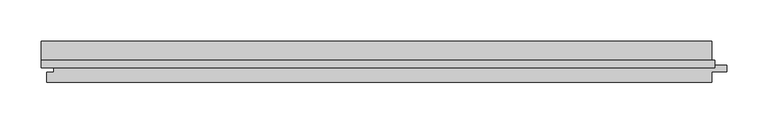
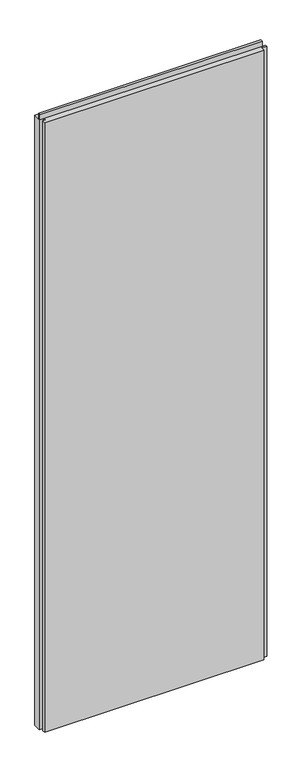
"""IFC4 building model written with IfcOpenShell, lengths in millimetres: plate geometry, Trimo_Qbiss Screen_Normal Panel-VERTICAL : HR - FB."""

from ifc_helpers import new_model, si_unit, frame, origin, place, context, project, spatial, polyline, outline, extrude, source, transform, mapped, element, save


def plate_1518a5a2(model_context):
    return source(origin(), model_context, "Body", "SweptSolid", [
        extrude(outline(polyline([(-351.0, 93.9), (-351.0, 102.6), (467.0, 102.6), (467.0, 93.9), (-351.0, 93.9)])), frame((0.0, 0.0, 2390.5), z_axis=(0.0, 0.0, 1.0), x_axis=(1.0, 0.0, 0.0)), (0.0, 0.0, 1.0), 19.0),
        extrude(outline(polyline([(463.0, 97.0), (481.5, 97.0), (481.5, 89.0), (463.0, 89.0), (463.0, 76.0), (-344.0, 76.0), (-344.0, 88.0), (-335.5, 88.0), (-335.5, 98.0), (-351.0, 98.0), (-351.0, 126.0), (463.0, 126.0), (463.0, 97.0)])), frame((0.0, 0.0, 12.5), z_axis=(0.0, 0.0, 1.0), x_axis=(1.0, 0.0, 0.0)), (0.0, 0.0, 1.0), 2375.0),
    ])


if __name__ == "__main__":
    model = new_model("IFC4")
    model_context = context("Model", 3, world=origin())
    ifc_project = project(units=[si_unit("LENGTHUNIT", "METRE", prefix="MILLI")], contexts=[model_context])
    site = spatial("IfcSite", under=ifc_project)
    building = spatial("IfcBuilding", under=site)
    placement = place(None, origin())
    plate_shape = plate_1518a5a2(model_context)
    element("IfcPlate", 1, ObjectType="Trimo_Qbiss Screen_Normal Panel-VERTICAL : HR - FB", at=placement, inside=building, context=model_context, shape_type="MappedRepresentation", body=[
        mapped(plate_shape, transform((0.0, 0.0, 0.0), x_axis=(1.0, 0.0, 0.0), y_axis=(0.0, 1.0, 0.0), z_axis=(0.0, 0.0, 1.0))),
    ])
    save(model, "model.ifc")
